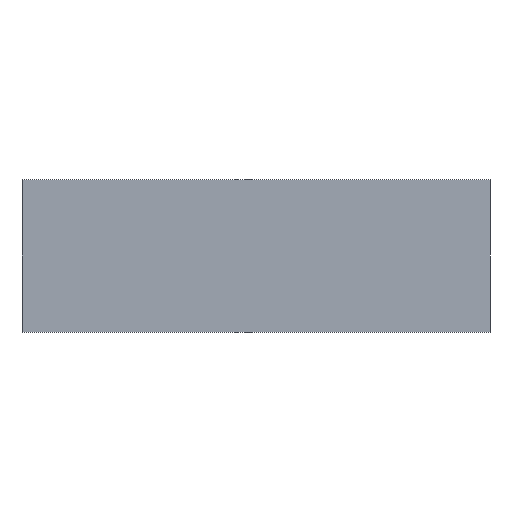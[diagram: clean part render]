
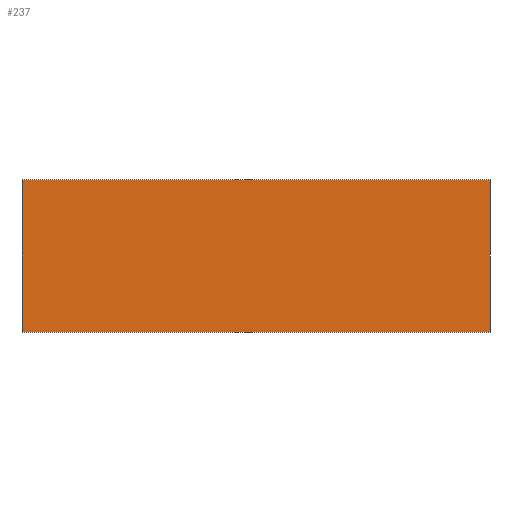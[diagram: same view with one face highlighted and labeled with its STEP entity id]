
A CAD part, front view. The second image highlights one B-rep face of the part: STEP entity #237.
In plain terms, the highlighted planar face has unit normal (0, -1, 0).
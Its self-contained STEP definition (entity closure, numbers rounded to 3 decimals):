
#21 = EDGE_CURVE('',#22,#24,#26,.T.);
#22 = VERTEX_POINT('',#23);
#23 = CARTESIAN_POINT('',(-29.9,-12.415,-12.971));
#24 = VERTEX_POINT('',#25);
#25 = CARTESIAN_POINT('',(-29.9,-12.415,-12.71));
#26 = SURFACE_CURVE('',#27,(#31,#43),.PCURVE_S1.);
#27 = LINE('',#28,#29);
#28 = CARTESIAN_POINT('',(-29.9,-12.415,-12.971));
#29 = VECTOR('',#30,1.);
#30 = DIRECTION('',(0.,0.,1.));
#31 = PCURVE('',#32,#37);
#32 = PLANE('',#33);
#33 = AXIS2_PLACEMENT_3D('',#34,#35,#36);
#34 = CARTESIAN_POINT('',(-29.9,-12.415,-12.971));
#35 = DIRECTION('',(1.,0.,-0.));
#36 = DIRECTION('',(0.,0.,1.));
#37 = DEFINITIONAL_REPRESENTATION('',(#38),#42);
#38 = LINE('',#39,#40);
#39 = CARTESIAN_POINT('',(0.,0.));
#40 = VECTOR('',#41,1.);
#41 = DIRECTION('',(1.,0.));
#42 = ( GEOMETRIC_REPRESENTATION_CONTEXT(2) 
PARAMETRIC_REPRESENTATION_CONTEXT() REPRESENTATION_CONTEXT('2D SPACE',''
  ) );
#43 = PCURVE('',#44,#49);
#44 = PLANE('',#45);
#45 = AXIS2_PLACEMENT_3D('',#46,#47,#48);
#46 = CARTESIAN_POINT('',(-29.9,-12.415,-12.971));
#47 = DIRECTION('',(-0.,1.,0.));
#48 = DIRECTION('',(0.,0.,1.));
#49 = DEFINITIONAL_REPRESENTATION('',(#50),#54);
#50 = LINE('',#51,#52);
#51 = CARTESIAN_POINT('',(0.,0.));
#52 = VECTOR('',#53,1.);
#53 = DIRECTION('',(1.,0.));
#54 = ( GEOMETRIC_REPRESENTATION_CONTEXT(2) 
PARAMETRIC_REPRESENTATION_CONTEXT() REPRESENTATION_CONTEXT('2D SPACE',''
  ) );
#72 = PLANE('',#73);
#73 = AXIS2_PLACEMENT_3D('',#74,#75,#76);
#74 = CARTESIAN_POINT('',(-29.9,-12.415,-12.971));
#75 = DIRECTION('',(0.,0.,1.));
#76 = DIRECTION('',(1.,0.,-0.));
#126 = PLANE('',#127);
#127 = AXIS2_PLACEMENT_3D('',#128,#129,#130);
#128 = CARTESIAN_POINT('',(-29.9,-12.415,-12.71));
#129 = DIRECTION('',(0.,0.,1.));
#130 = DIRECTION('',(1.,0.,-0.));
#141 = EDGE_CURVE('',#142,#144,#146,.T.);
#142 = VERTEX_POINT('',#143);
#143 = CARTESIAN_POINT('',(-29.1,-12.415,-12.971));
#144 = VERTEX_POINT('',#145);
#145 = CARTESIAN_POINT('',(-29.1,-12.415,-12.71));
#146 = SURFACE_CURVE('',#147,(#151,#163),.PCURVE_S1.);
#147 = LINE('',#148,#149);
#148 = CARTESIAN_POINT('',(-29.1,-12.415,-12.971));
#149 = VECTOR('',#150,1.);
#150 = DIRECTION('',(0.,0.,1.));
#151 = PCURVE('',#152,#157);
#152 = PLANE('',#153);
#153 = AXIS2_PLACEMENT_3D('',#154,#155,#156);
#154 = CARTESIAN_POINT('',(-29.1,-12.415,-12.971));
#155 = DIRECTION('',(1.,0.,-0.));
#156 = DIRECTION('',(0.,0.,1.));
#157 = DEFINITIONAL_REPRESENTATION('',(#158),#162);
#158 = LINE('',#159,#160);
#159 = CARTESIAN_POINT('',(0.,0.));
#160 = VECTOR('',#161,1.);
#161 = DIRECTION('',(1.,0.));
#162 = ( GEOMETRIC_REPRESENTATION_CONTEXT(2) 
PARAMETRIC_REPRESENTATION_CONTEXT() REPRESENTATION_CONTEXT('2D SPACE',''
  ) );
#163 = PCURVE('',#44,#164);
#164 = DEFINITIONAL_REPRESENTATION('',(#165),#169);
#165 = LINE('',#166,#167);
#166 = CARTESIAN_POINT('',(0.,0.8));
#167 = VECTOR('',#168,1.);
#168 = DIRECTION('',(1.,0.));
#169 = ( GEOMETRIC_REPRESENTATION_CONTEXT(2) 
PARAMETRIC_REPRESENTATION_CONTEXT() REPRESENTATION_CONTEXT('2D SPACE',''
  ) );
#237 = ADVANCED_FACE('',(#238),#44,.F.);
#238 = FACE_BOUND('',#239,.F.);
#239 = EDGE_LOOP('',(#240,#261,#262,#283));
#240 = ORIENTED_EDGE('',*,*,#241,.F.);
#241 = EDGE_CURVE('',#22,#142,#242,.T.);
#242 = SURFACE_CURVE('',#243,(#247,#254),.PCURVE_S1.);
#243 = LINE('',#244,#245);
#244 = CARTESIAN_POINT('',(-29.9,-12.415,-12.971));
#245 = VECTOR('',#246,1.);
#246 = DIRECTION('',(1.,0.,-0.));
#247 = PCURVE('',#44,#248);
#248 = DEFINITIONAL_REPRESENTATION('',(#249),#253);
#249 = LINE('',#250,#251);
#250 = CARTESIAN_POINT('',(0.,0.));
#251 = VECTOR('',#252,1.);
#252 = DIRECTION('',(0.,1.));
#253 = ( GEOMETRIC_REPRESENTATION_CONTEXT(2) 
PARAMETRIC_REPRESENTATION_CONTEXT() REPRESENTATION_CONTEXT('2D SPACE',''
  ) );
#254 = PCURVE('',#72,#255);
#255 = DEFINITIONAL_REPRESENTATION('',(#256),#260);
#256 = LINE('',#257,#258);
#257 = CARTESIAN_POINT('',(0.,0.));
#258 = VECTOR('',#259,1.);
#259 = DIRECTION('',(1.,0.));
#260 = ( GEOMETRIC_REPRESENTATION_CONTEXT(2) 
PARAMETRIC_REPRESENTATION_CONTEXT() REPRESENTATION_CONTEXT('2D SPACE',''
  ) );
#261 = ORIENTED_EDGE('',*,*,#21,.T.);
#262 = ORIENTED_EDGE('',*,*,#263,.T.);
#263 = EDGE_CURVE('',#24,#144,#264,.T.);
#264 = SURFACE_CURVE('',#265,(#269,#276),.PCURVE_S1.);
#265 = LINE('',#266,#267);
#266 = CARTESIAN_POINT('',(-29.9,-12.415,-12.71));
#267 = VECTOR('',#268,1.);
#268 = DIRECTION('',(1.,0.,-0.));
#269 = PCURVE('',#44,#270);
#270 = DEFINITIONAL_REPRESENTATION('',(#271),#275);
#271 = LINE('',#272,#273);
#272 = CARTESIAN_POINT('',(0.261,0.));
#273 = VECTOR('',#274,1.);
#274 = DIRECTION('',(0.,1.));
#275 = ( GEOMETRIC_REPRESENTATION_CONTEXT(2) 
PARAMETRIC_REPRESENTATION_CONTEXT() REPRESENTATION_CONTEXT('2D SPACE',''
  ) );
#276 = PCURVE('',#126,#277);
#277 = DEFINITIONAL_REPRESENTATION('',(#278),#282);
#278 = LINE('',#279,#280);
#279 = CARTESIAN_POINT('',(0.,0.));
#280 = VECTOR('',#281,1.);
#281 = DIRECTION('',(1.,0.));
#282 = ( GEOMETRIC_REPRESENTATION_CONTEXT(2) 
PARAMETRIC_REPRESENTATION_CONTEXT() REPRESENTATION_CONTEXT('2D SPACE',''
  ) );
#283 = ORIENTED_EDGE('',*,*,#141,.F.);
